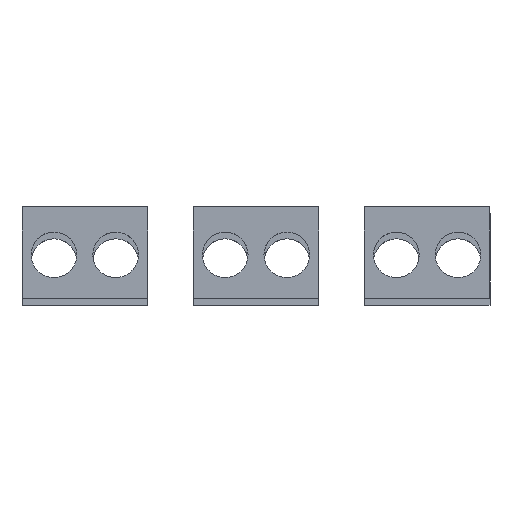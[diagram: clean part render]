
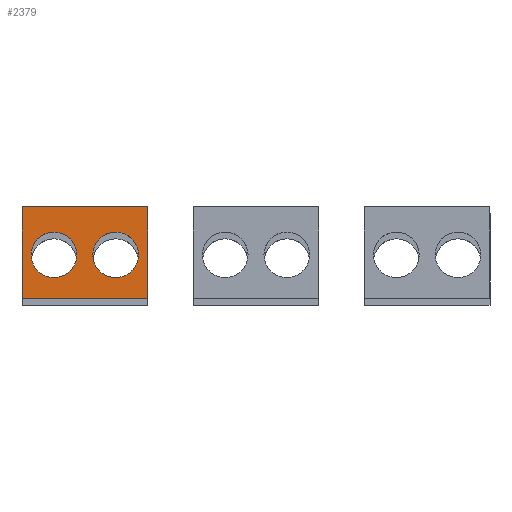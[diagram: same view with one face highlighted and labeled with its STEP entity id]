
A CAD part, front view. The second image highlights one B-rep face of the part: STEP entity #2379.
In plain terms, the highlighted planar face has unit normal (0, -1, 0).
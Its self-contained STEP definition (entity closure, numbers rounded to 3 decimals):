
#79 = CARTESIAN_POINT ( 'NONE',  ( -47.5, -108.2, 72.75 ) ) ;
#98 = VERTEX_POINT ( 'NONE', #4838 ) ;
#129 = DIRECTION ( 'NONE',  ( -1., 0., 0. ) ) ;
#314 = AXIS2_PLACEMENT_3D ( 'NONE', #478, #2071, #6544 ) ;
#366 = CARTESIAN_POINT ( 'NONE',  ( -102.5, -108.2, 72.75 ) ) ;
#437 = EDGE_LOOP ( 'NONE', ( #934, #5786, #1900, #3146 ) ) ;
#478 = CARTESIAN_POINT ( 'NONE',  ( -61.5, -108.2, 51.75 ) ) ;
#501 = DIRECTION ( 'NONE',  ( 1., 0., 0. ) ) ;
#762 = ORIENTED_EDGE ( 'NONE', *, *, #7126, .T. ) ;
#838 = CARTESIAN_POINT ( 'NONE',  ( -102.5, -108.2, 32.75 ) ) ;
#915 = DIRECTION ( 'NONE',  ( 0., 1., 0. ) ) ;
#934 = ORIENTED_EDGE ( 'NONE', *, *, #6789, .F. ) ;
#939 = CARTESIAN_POINT ( 'NONE',  ( -88.5, -108.2, 51.75 ) ) ;
#1120 = VECTOR ( 'NONE', #7005, 1000. ) ;
#1299 = DIRECTION ( 'NONE',  ( 1., 0., 0. ) ) ;
#1341 = AXIS2_PLACEMENT_3D ( 'NONE', #939, #915, #2426 ) ;
#1464 = FACE_BOUND ( 'NONE', #1817, .T. ) ;
#1747 = VECTOR ( 'NONE', #5143, 1000. ) ;
#1817 = EDGE_LOOP ( 'NONE', ( #762, #3155 ) ) ;
#1822 = DIRECTION ( 'NONE',  ( 1., 0., 0. ) ) ;
#1839 = ORIENTED_EDGE ( 'NONE', *, *, #5463, .T. ) ;
#1852 = CIRCLE ( 'NONE', #4825, 10. ) ;
#1864 = VERTEX_POINT ( 'NONE', #6209 ) ;
#1900 = ORIENTED_EDGE ( 'NONE', *, *, #2101, .F. ) ;
#2068 = VECTOR ( 'NONE', #2510, 1000. ) ;
#2071 = DIRECTION ( 'NONE',  ( 0., 1., 0. ) ) ;
#2101 = EDGE_CURVE ( 'NONE', #2697, #3879, #4822, .T. ) ;
#2298 = AXIS2_PLACEMENT_3D ( 'NONE', #2402, #3456, #1822 ) ;
#2305 = VERTEX_POINT ( 'NONE', #3733 ) ;
#2379 = ADVANCED_FACE ( 'NONE', ( #6738, #1464, #3414 ), #5757, .T. ) ;
#2402 = CARTESIAN_POINT ( 'NONE',  ( -47.5, -108.2, 72.75 ) ) ;
#2425 = CIRCLE ( 'NONE', #2980, 10. ) ;
#2426 = DIRECTION ( 'NONE',  ( 1., 0., 0. ) ) ;
#2510 = DIRECTION ( 'NONE',  ( 0., 0., 1. ) ) ;
#2612 = ORIENTED_EDGE ( 'NONE', *, *, #4589, .T. ) ;
#2697 = VERTEX_POINT ( 'NONE', #5982 ) ;
#2720 = VERTEX_POINT ( 'NONE', #3903 ) ;
#2980 = AXIS2_PLACEMENT_3D ( 'NONE', #3784, #6571, #501 ) ;
#3146 = ORIENTED_EDGE ( 'NONE', *, *, #4790, .F. ) ;
#3155 = ORIENTED_EDGE ( 'NONE', *, *, #3630, .T. ) ;
#3287 = EDGE_CURVE ( 'NONE', #3879, #4492, #5504, .T. ) ;
#3411 = LINE ( 'NONE', #5279, #1120 ) ;
#3414 = FACE_OUTER_BOUND ( 'NONE', #437, .T. ) ;
#3456 = DIRECTION ( 'NONE',  ( 0., -1., 0. ) ) ;
#3630 = EDGE_CURVE ( 'NONE', #2720, #6317, #1852, .T. ) ;
#3733 = CARTESIAN_POINT ( 'NONE',  ( -98.5, -108.2, 51.75 ) ) ;
#3784 = CARTESIAN_POINT ( 'NONE',  ( -88.5, -108.2, 51.75 ) ) ;
#3879 = VERTEX_POINT ( 'NONE', #366 ) ;
#3903 = CARTESIAN_POINT ( 'NONE',  ( -51.5, -108.2, 51.75 ) ) ;
#3934 = CIRCLE ( 'NONE', #314, 10. ) ;
#4492 = VERTEX_POINT ( 'NONE', #79 ) ;
#4589 = EDGE_CURVE ( 'NONE', #2305, #1864, #5813, .T. ) ;
#4664 = LINE ( 'NONE', #5490, #1747 ) ;
#4790 = EDGE_CURVE ( 'NONE', #98, #2697, #4664, .T. ) ;
#4822 = LINE ( 'NONE', #838, #2068 ) ;
#4825 = AXIS2_PLACEMENT_3D ( 'NONE', #6798, #5148, #129 ) ;
#4838 = CARTESIAN_POINT ( 'NONE',  ( -47.5, -108.2, 32.75 ) ) ;
#5143 = DIRECTION ( 'NONE',  ( -1., 0., 0. ) ) ;
#5148 = DIRECTION ( 'NONE',  ( 0., 1., 0. ) ) ;
#5279 = CARTESIAN_POINT ( 'NONE',  ( -47.5, -108.2, 32.75 ) ) ;
#5463 = EDGE_CURVE ( 'NONE', #1864, #2305, #2425, .T. ) ;
#5490 = CARTESIAN_POINT ( 'NONE',  ( -47.5, -108.2, 32.75 ) ) ;
#5504 = LINE ( 'NONE', #6885, #5843 ) ;
#5707 = EDGE_LOOP ( 'NONE', ( #2612, #1839 ) ) ;
#5757 = PLANE ( 'NONE',  #2298 ) ;
#5771 = CARTESIAN_POINT ( 'NONE',  ( -71.5, -108.2, 51.75 ) ) ;
#5786 = ORIENTED_EDGE ( 'NONE', *, *, #3287, .F. ) ;
#5813 = CIRCLE ( 'NONE', #1341, 10. ) ;
#5843 = VECTOR ( 'NONE', #1299, 1000. ) ;
#5982 = CARTESIAN_POINT ( 'NONE',  ( -102.5, -108.2, 32.75 ) ) ;
#6209 = CARTESIAN_POINT ( 'NONE',  ( -78.5, -108.2, 51.75 ) ) ;
#6317 = VERTEX_POINT ( 'NONE', #5771 ) ;
#6544 = DIRECTION ( 'NONE',  ( -1., 0., 0. ) ) ;
#6571 = DIRECTION ( 'NONE',  ( 0., 1., 0. ) ) ;
#6738 = FACE_BOUND ( 'NONE', #5707, .T. ) ;
#6789 = EDGE_CURVE ( 'NONE', #4492, #98, #3411, .T. ) ;
#6798 = CARTESIAN_POINT ( 'NONE',  ( -61.5, -108.2, 51.75 ) ) ;
#6885 = CARTESIAN_POINT ( 'NONE',  ( -47.5, -108.2, 72.75 ) ) ;
#7005 = DIRECTION ( 'NONE',  ( 0., 0., -1. ) ) ;
#7126 = EDGE_CURVE ( 'NONE', #6317, #2720, #3934, .T. ) ;
